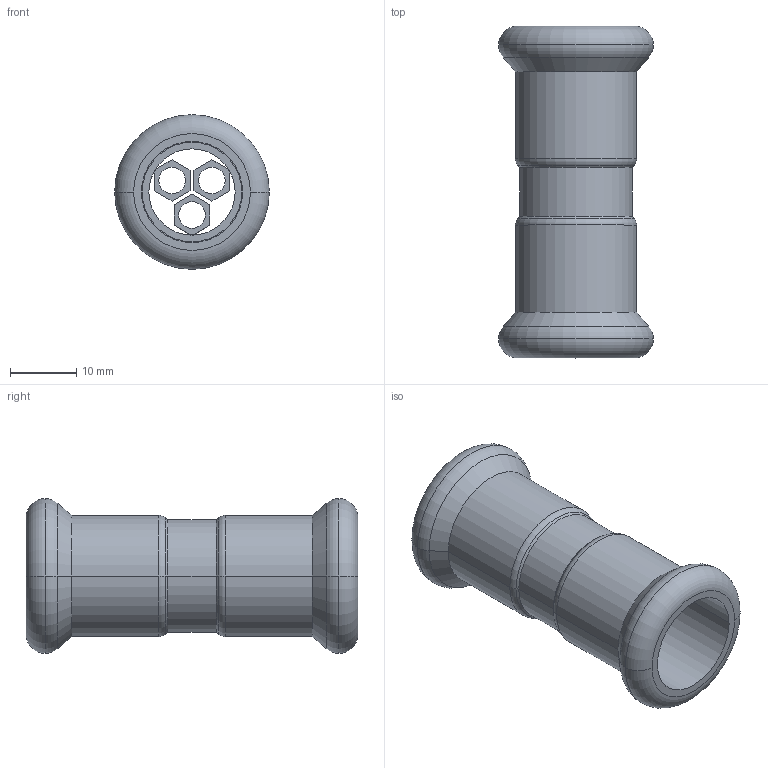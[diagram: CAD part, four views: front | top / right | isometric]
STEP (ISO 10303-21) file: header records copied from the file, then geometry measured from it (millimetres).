
FILE_DESCRIPTION(('OneSpaceDesigner STEP Export'),'2;1');
FILE_NAME('R2701 15x15.stp','2010-06-08T12:59:59',(''),(''),'OneSpace Designer STEP processor for AP214 (Solid Model)','OneSpace Modeling 15.00A 14-Mar-2007 (C) CoCreate Software GmbH','');
FILE_SCHEMA(('AUTOMOTIVE_DESIGN { 1 0 10303 214 1 1 1 1 }'));
Length unit declared in the file: millimetre
Products named in the file (2): R2701_15x15
Assembly tree (1 placements, depth 2):
  R2701_15x15
    R2701_15x15
Bounding box: 23.3 x 50 x 23.3 mm (x, y, z)
Volume: 5804.8 mm3; surface area: 6474.2 mm2
Topology: 1 solids, 1 shells, 114 faces, 282 edges, 180 vertices
Faces by surface type: plane 60, cylinder 34, torus 12, cone 8
Entity records: 3075 total; most frequent: ORIENTED_EDGE 564, CARTESIAN_POINT 502, DIRECTION 470, EDGE_CURVE 282, VERTEX_POINT 180, VECTOR 174, LINE 174, AXIS2_PLACEMENT_3D 148
